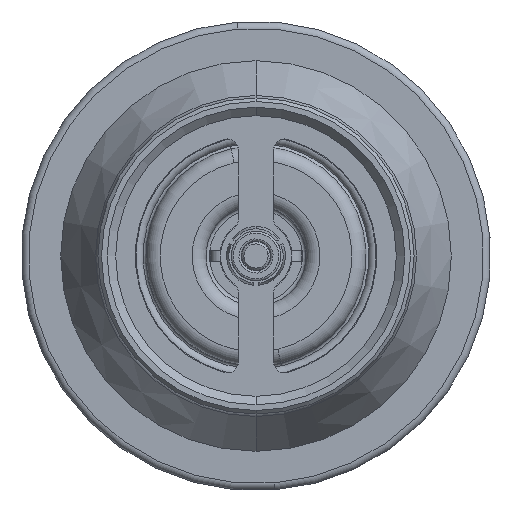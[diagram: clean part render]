
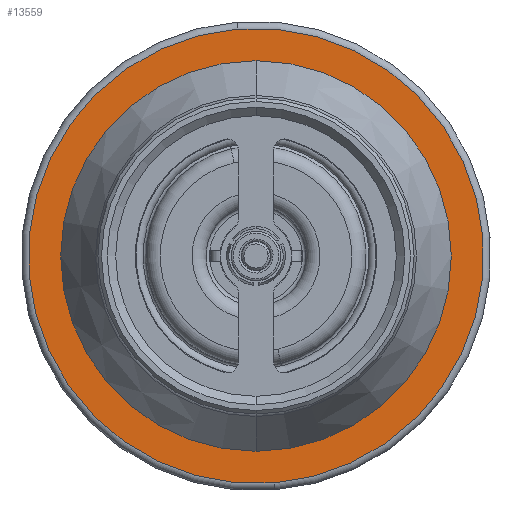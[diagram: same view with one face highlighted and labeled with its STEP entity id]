
A CAD part, front view. The second image highlights one B-rep face of the part: STEP entity #13559.
In plain terms, the highlighted planar face has unit normal (0, -1, 0).
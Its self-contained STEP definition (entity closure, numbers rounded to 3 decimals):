
#744 = AXIS2_PLACEMENT_3D ( 'NONE', #4088, #15020, #5638 ) ;
#1028 = DIRECTION ( 'NONE',  ( 0., 0., -1. ) ) ;
#1182 = FACE_OUTER_BOUND ( 'NONE', #18720, .T. ) ;
#1327 = CARTESIAN_POINT ( 'NONE',  ( 0., 3., 0. ) ) ;
#1617 = EDGE_CURVE ( 'NONE', #3978, #11946, #18407, .T. ) ;
#1679 = DIRECTION ( 'NONE',  ( 0., 0., -1. ) ) ;
#1885 = DIRECTION ( 'NONE',  ( 0., -1., 0. ) ) ;
#1897 = EDGE_CURVE ( 'NONE', #13713, #18813, #14259, .T. ) ;
#2672 = CARTESIAN_POINT ( 'NONE',  ( 0., 3., 0. ) ) ;
#3809 = ORIENTED_EDGE ( 'NONE', *, *, #1617, .F. ) ;
#3978 = VERTEX_POINT ( 'NONE', #12587 ) ;
#4088 = CARTESIAN_POINT ( 'NONE',  ( 0., 3., 0. ) ) ;
#4437 = EDGE_CURVE ( 'NONE', #18813, #13713, #8830, .T. ) ;
#5057 = CIRCLE ( 'NONE', #14541, 24.05 ) ;
#5116 = FACE_BOUND ( 'NONE', #12566, .T. ) ;
#5592 = CARTESIAN_POINT ( 'NONE',  ( 0., 3., 32.05 ) ) ;
#5638 = DIRECTION ( 'NONE',  ( 0., 0., -1. ) ) ;
#6676 = CARTESIAN_POINT ( 'NONE',  ( 0., 3., 0. ) ) ;
#6752 = ORIENTED_EDGE ( 'NONE', *, *, #4437, .T. ) ;
#7585 = AXIS2_PLACEMENT_3D ( 'NONE', #6676, #17347, #1679 ) ;
#7975 = CARTESIAN_POINT ( 'NONE',  ( 24.05, 3., 0. ) ) ;
#8830 = CIRCLE ( 'NONE', #7585, 32.05 ) ;
#9031 = AXIS2_PLACEMENT_3D ( 'NONE', #7975, #14199, #12834 ) ;
#10424 = CARTESIAN_POINT ( 'NONE',  ( 0., 3., 24.05 ) ) ;
#11333 = PLANE ( 'NONE',  #9031 ) ;
#11946 = VERTEX_POINT ( 'NONE', #10424 ) ;
#12566 = EDGE_LOOP ( 'NONE', ( #3809, #15094 ) ) ;
#12587 = CARTESIAN_POINT ( 'NONE',  ( 0., 3., -24.05 ) ) ;
#12686 = AXIS2_PLACEMENT_3D ( 'NONE', #2672, #19723, #1028 ) ;
#12834 = DIRECTION ( 'NONE',  ( 0., 0., -1. ) ) ;
#13559 = ADVANCED_FACE ( 'NONE', ( #1182, #5116 ), #11333, .T. ) ;
#13713 = VERTEX_POINT ( 'NONE', #16251 ) ;
#13905 = ORIENTED_EDGE ( 'NONE', *, *, #1897, .T. ) ;
#14199 = DIRECTION ( 'NONE',  ( 0., -1., 0. ) ) ;
#14259 = CIRCLE ( 'NONE', #744, 32.05 ) ;
#14541 = AXIS2_PLACEMENT_3D ( 'NONE', #1327, #1885, #18925 ) ;
#15020 = DIRECTION ( 'NONE',  ( 0., -1., 0. ) ) ;
#15094 = ORIENTED_EDGE ( 'NONE', *, *, #15544, .F. ) ;
#15544 = EDGE_CURVE ( 'NONE', #11946, #3978, #5057, .T. ) ;
#16251 = CARTESIAN_POINT ( 'NONE',  ( 0., 3., -32.05 ) ) ;
#17347 = DIRECTION ( 'NONE',  ( 0., -1., 0. ) ) ;
#18407 = CIRCLE ( 'NONE', #12686, 24.05 ) ;
#18720 = EDGE_LOOP ( 'NONE', ( #13905, #6752 ) ) ;
#18813 = VERTEX_POINT ( 'NONE', #5592 ) ;
#18925 = DIRECTION ( 'NONE',  ( 0., 0., -1. ) ) ;
#19723 = DIRECTION ( 'NONE',  ( 0., -1., 0. ) ) ;
